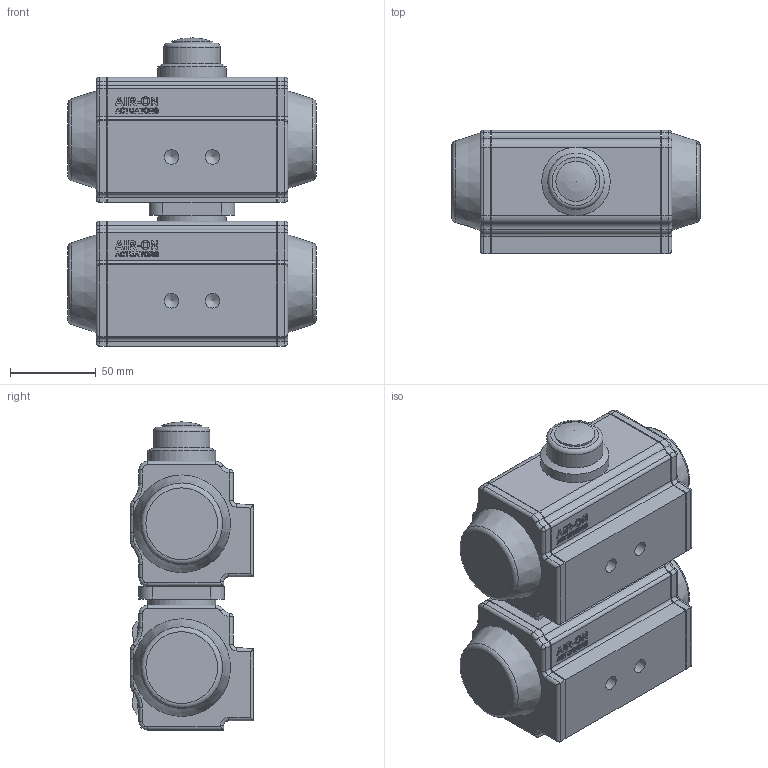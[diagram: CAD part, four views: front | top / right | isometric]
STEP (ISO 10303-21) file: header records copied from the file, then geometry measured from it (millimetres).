
FILE_DESCRIPTION( ( 'Unknown' ), '1' );
FILE_NAME( 'W:/ECCUA/ROOTSI BPS 3D vidinad/Kuulkraanid/Roostevaba kuulkraanid/Ball valve BPS 2420/Ball valve with pneumatic actuator BPS/STEP format/BPS 2420025P ball valve DN25.stp', 'Unknown', ( 'Unknown' ), ( 'Unknown' ), 'PSStep 10.1', 'Unknown', ' ' );
FILE_SCHEMA( ( 'AUTOMOTIVE_DESIGN { 1 0 10303 214 1 1 1 1 }' ) );
Length unit declared in the file: millimetre
Products named in the file (5): Assem1; BPS 2420025 ball valve DN25; BPS 8300050DA-SR pneumatic actuator
Bounding box: 145 x 72 x 180 mm (x, y, z)
Volume: 1492921.6 mm3; surface area: 212800.6 mm2
Topology: 8 solids, 8 shells, 1136 faces, 2842 edges, 1858 vertices
Faces by surface type: plane 494, cylinder 272, extrusion 202, bspline 88, torus 46, cone 28, sphere 6
Full cylindrical faces by diameter (mm): 4.134 x8, 4.917 x8, 6 x24, 8.566 x4, 23.5 x2, 25 x2, 27 x2, 30.291 x4, 33 x2, 35 x2, 40 x2, 50 x2
Entity records: 26027 total; most frequent: CARTESIAN_POINT 8923, ORIENTED_EDGE 2664, DIRECTION 2122, EDGE_CURVE 1332, VERTEX_POINT 909, VECTOR 748, EDGE_LOOP 713, AXIS2_PLACEMENT_3D 687
